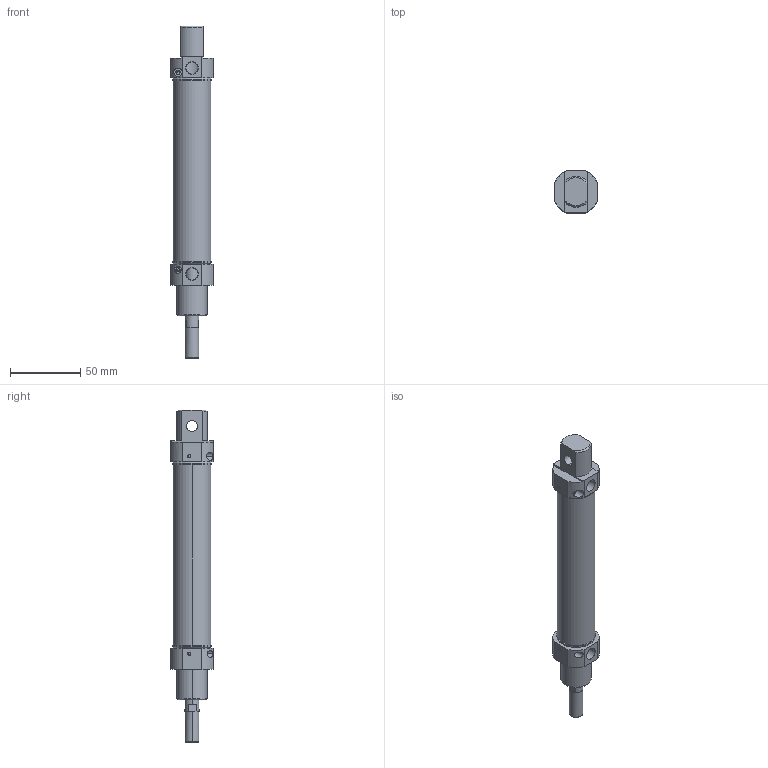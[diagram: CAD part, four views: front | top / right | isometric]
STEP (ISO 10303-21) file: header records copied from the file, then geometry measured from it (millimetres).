
FILE_DESCRIPTION (( 'STEP AP214' ), '1' );
FILE_NAME ('RMAY_25_100_WEB.STEP', '2021-05-06T15:46:23', ( '' ), ( '' ), 'SwSTEP 2.0', 'SolidWorks 2021', '' );
FILE_SCHEMA (( 'AUTOMOTIVE_DESIGN' ));
Length unit declared in the file: millimetre
Products named in the file (9): RMAY_25_onkapak; RMAY_25_arkakapak; yastýk_vidasý; RMAY_25_100_mil_WEB; 1012_PAPYUZUK; 25_100_boru; KASTAS-K52-10X16_2X4_5-6; RMAY_25_100_WEB; socket set screw cone point_am_B18.3.6M - M3 x 0.5 x 2.5 Hex Socket Cone Pt. SS --N
Assembly tree (10 placements, depth 2):
  RMAY_25_100_WEB
    25_100_boru
    RMAY_25_onkapak
    KASTAS-K52-10X16_2X4_5-6
    1012_PAPYUZUK
    RMAY_25_arkakapak
    RMAY_25_100_mil_WEB
    yastýk_vidasý  x2
    socket set screw cone point_am_B18.3.6M - M3 x 0.5 x 2.5 Hex Socket Cone Pt. SS --N  x2
Bounding box: 30 x 30 x 237 mm (x, y, z)
Volume: 53137.5 mm3; surface area: 42378.6 mm2
Topology: 10 solids, 10 shells, 470 faces, 1172 edges, 752 vertices
Faces by surface type: plane 175, cylinder 150, bspline 89, cone 54, torus 2
Entity records: 19815 total; most frequent: CARTESIAN_POINT 7751, ORIENTED_EDGE 2140, DIRECTION 1870, EDGE_CURVE 1070, VERTEX_POINT 687, AXIS2_PLACEMENT_3D 687, LINE 496, VECTOR 496
